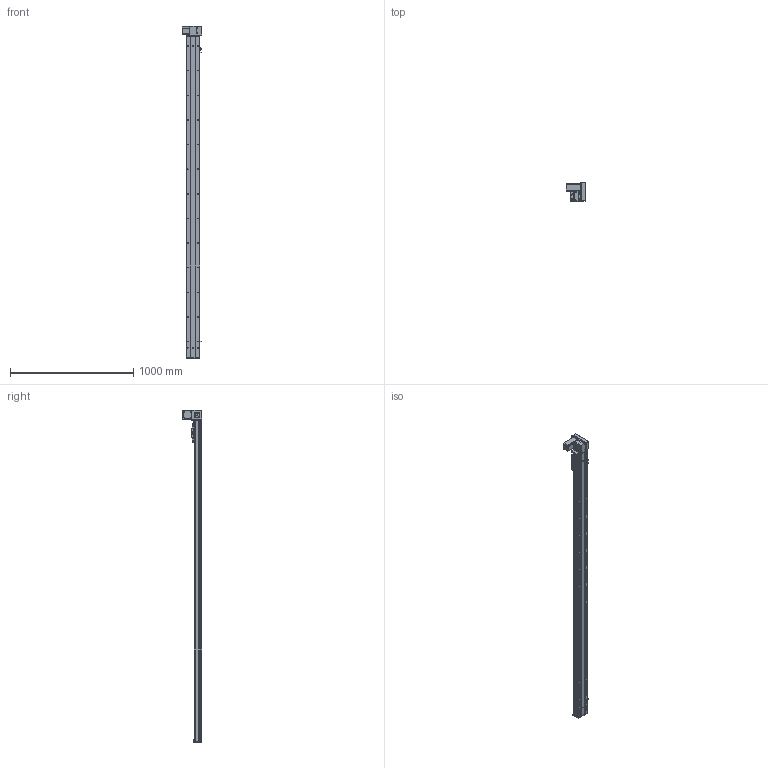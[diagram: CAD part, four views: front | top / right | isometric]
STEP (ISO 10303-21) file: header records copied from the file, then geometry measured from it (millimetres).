
FILE_DESCRIPTION (( 'STEP AP203' ), '1' );
FILE_NAME ('Y10CB-D90-S2350-UR-P400W.STEP', '2020-02-16T04:11:28', ( '微软用户' ), ( '微软中国' ), 'SwSTEP 2.0', 'SolidWorks 2017', '' );
FILE_SCHEMA (( 'CONFIG_CONTROL_DESIGN' ));
Length unit declared in the file: millimetre
Products named in the file (18): 00B-俋欶BM--; Y10CB- 掛极耜裔啣-毀---; 0CB-雄赽釱---; Y10CB-D90-S2350-UR-P400W; Y10C---詩湍揤啣; 0Cb-俋欶---; 10CB9-掛极; Y10B-々湍喘謫眊楊擘啣--; 10CB-耜裔; 0B-萇儂楊擘啣; Y135C-陔俋离換覜結え-; san松下电机400不带刹车----; Y100-135俋离換覜ん--; 0B-源倛裔啣; Y10B--々湍喘謫眊--666; 0B-埴倛裔啣; Y10B-耜蚾蟀諉啣----; 10CB-詩湍-
Assembly tree (21 placements, depth 2):
  Y10CB-D90-S2350-UR-P400W
    0CB-雄赽釱---
    0Cb-俋欶---
    Y10B-々湍喘謫眊楊擘啣--
    0B-萇儂楊擘啣
    san松下电机400不带刹车----
    0B-源倛裔啣
    0B-埴倛裔啣
    10CB-詩湍-
    Y10CB- 掛极耜裔啣-毀---  x2
    Y10C---詩湍揤啣  x2
    10CB9-掛极
    10CB-耜裔
    Y135C-陔俋离換覜結え-
    Y100-135俋离換覜ん--  x3
    Y10B--々湍喘謫眊--666
    Y10B-耜蚾蟀諉啣----
    00B-俋欶BM--
Bounding box: 157 x 155.5 x 2696 mm (x, y, z)
Volume: 5491491.9 mm3; surface area: 2600141.5 mm2
Topology: 21 solids, 21 shells, 1074 faces, 2923 edges, 1898 vertices
Faces by surface type: cylinder 559, plane 491, cone 24
Entity records: 34412 total; most frequent: CARTESIAN_POINT 6505, DIRECTION 5474, ORIENTED_EDGE 5316, EDGE_CURVE 2658, AXIS2_PLACEMENT_3D 1957, VERTEX_POINT 1724, VECTOR 1560, LINE 1560
